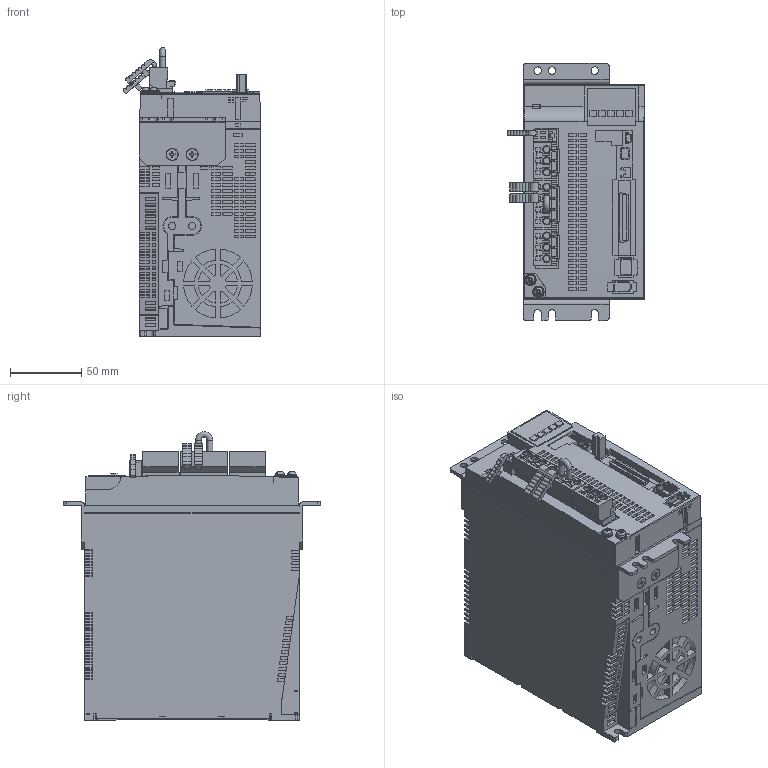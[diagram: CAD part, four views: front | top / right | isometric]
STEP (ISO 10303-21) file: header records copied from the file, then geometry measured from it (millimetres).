
FILE_DESCRIPTION( ( 'STEP AP214' ), '1' );
FILE_NAME( 'p:/temp/worker_765/temp/exporttempdir_3576_226_eeYNG/format_0/MDDLT54SF.stp', '2020-08-19T07:43:38', ( 'License CC BY-ND 4.0' ), ( 'CADENAS' ), ' ', 'PARTsolutions', ' ' );
FILE_SCHEMA( ( 'AUTOMOTIVE_DESIGN { 1 0 10303 214 1 1 1 1 }' ) );
Length unit declared in the file: millimetre
Products named in the file (1): _MDDLT54SF
Bounding box: 96.3 x 180 x 202.25 mm (x, y, z)
Volume: 2138049.4 mm3; surface area: 158676.4 mm2
Topology: 1 solids, 1 shells, 3649 faces, 9856 edges, 6559 vertices
Faces by surface type: plane 2375, cylinder 1236, cone 31, bspline 6, torus 1
Full cylindrical faces by diameter (mm): 1.5 x2, 2.6 x1, 3 x2, 4 x2, 4.4 x10, 5 x4, 5.2 x4, 7.2 x2, 8 x6
Entity records: 144056 total; most frequent: CARTESIAN_POINT 20730, DIRECTION 19589, ORIENTED_EDGE 19578, EDGE_CURVE 9789, LINE 7065, VECTOR 7065, VERTEX_POINT 6552, AXIS2_PLACEMENT_3D 6262
